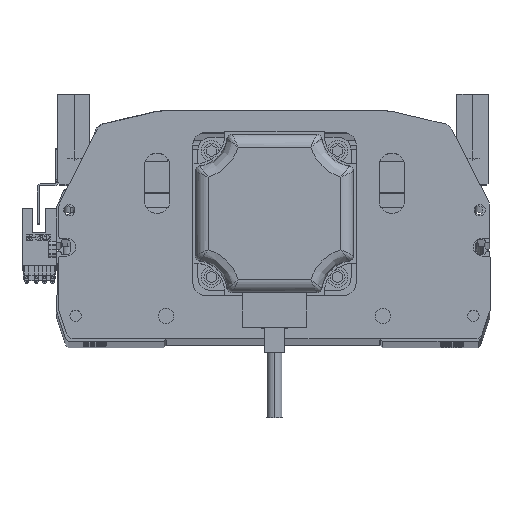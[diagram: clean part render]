
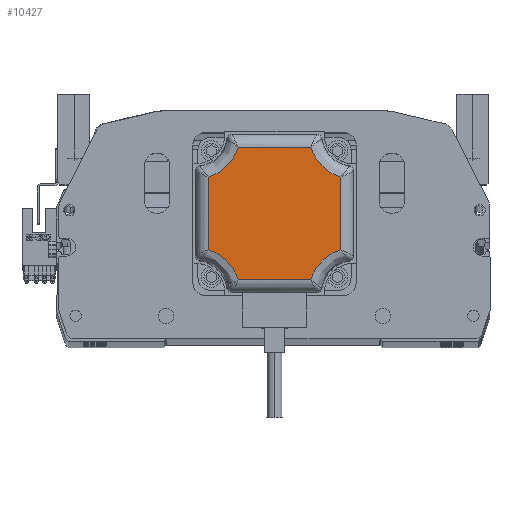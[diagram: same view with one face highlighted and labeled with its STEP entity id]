
A CAD part, top view. The second image highlights one B-rep face of the part: STEP entity #10427.
In plain terms, the highlighted planar face has unit normal (0, 0, 1) as drawn and (0, 0, -1) by its records, which use the part's own axes.
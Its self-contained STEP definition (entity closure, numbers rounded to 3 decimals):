
#228 = CARTESIAN_POINT ( 'NONE',  ( 15.5, 26., -116.5 ) ) ;
#376 =( BOUNDED_CURVE ( )  B_SPLINE_CURVE ( 3, ( #27657, #39695, #47520, #48190 ),
 .UNSPECIFIED., .F., .F. ) 
 B_SPLINE_CURVE_WITH_KNOTS ( ( 4, 4 ),
 ( 0., 1. ),
 .UNSPECIFIED. ) 
 CURVE ( )  GEOMETRIC_REPRESENTATION_ITEM ( )  RATIONAL_B_SPLINE_CURVE ( ( 1., 0.92, 0.92, 1. ) ) 
 REPRESENTATION_ITEM ( '' )  );
#2309 = VERTEX_POINT ( 'NONE', #49960 ) ;
#3080 = CARTESIAN_POINT ( 'NONE',  ( -15.5, -26., -116.5 ) ) ;
#3406 = PLANE ( 'NONE',  #18166 ) ;
#4440 = VERTEX_POINT ( 'NONE', #30923 ) ;
#6283 = EDGE_CURVE ( 'NONE', #20104, #25724, #24952, .T. ) ;
#6625 = CARTESIAN_POINT ( 'NONE',  ( 14.229, 26., -116.5 ) ) ;
#7629 = VECTOR ( 'NONE', #51141, 1000. ) ;
#7976 = EDGE_CURVE ( 'NONE', #32058, #20528, #41858, .T. ) ;
#8066 = VECTOR ( 'NONE', #23891, 1000. ) ;
#8738 = CARTESIAN_POINT ( 'NONE',  ( -26., -14.229, -116.5 ) ) ;
#10427 = ADVANCED_FACE ( 'NONE', ( #18359 ), #3406, .F. ) ;
#10495 = ORIENTED_EDGE ( 'NONE', *, *, #35332, .F. ) ;
#11271 = CARTESIAN_POINT ( 'NONE',  ( 14.229, 26., -116.5 ) ) ;
#11910 = ORIENTED_EDGE ( 'NONE', *, *, #41470, .F. ) ;
#12961 = CARTESIAN_POINT ( 'NONE',  ( -20.219, -15.953, -116.5 ) ) ;
#13675 = VERTEX_POINT ( 'NONE', #24072 ) ;
#15110 = CARTESIAN_POINT ( 'NONE',  ( 15.953, -20.219, -116.5 ) ) ;
#15205 = CARTESIAN_POINT ( 'NONE',  ( -26., 15.5, -116.5 ) ) ;
#16059 = CARTESIAN_POINT ( 'NONE',  ( 26., -15.5, -116.5 ) ) ;
#16516 = EDGE_CURVE ( 'NONE', #13675, #20104, #28831, .T. ) ;
#16792 = LINE ( 'NONE', #228, #8066 ) ;
#17334 = VERTEX_POINT ( 'NONE', #6625 ) ;
#17793 = ORIENTED_EDGE ( 'NONE', *, *, #16516, .F. ) ;
#18144 = VECTOR ( 'NONE', #36256, 1000. ) ;
#18166 = AXIS2_PLACEMENT_3D ( 'NONE', #31309, #47656, #43151 ) ;
#18359 = FACE_OUTER_BOUND ( 'NONE', #39188, .T. ) ;
#19145 = CARTESIAN_POINT ( 'NONE',  ( 26., -14.229, -116.5 ) ) ;
#20104 = VERTEX_POINT ( 'NONE', #32448 ) ;
#20528 = VERTEX_POINT ( 'NONE', #48172 ) ;
#23365 = ORIENTED_EDGE ( 'NONE', *, *, #27992, .F. ) ;
#23891 = DIRECTION ( 'NONE',  ( -1., 0., 0. ) ) ;
#24072 = CARTESIAN_POINT ( 'NONE',  ( -14.229, -26., -116.5 ) ) ;
#24952 =( BOUNDED_CURVE ( )  B_SPLINE_CURVE ( 3, ( #26611, #15110, #26782, #47000 ),
 .UNSPECIFIED., .F., .T. ) 
 B_SPLINE_CURVE_WITH_KNOTS ( ( 4, 4 ),
 ( 0., 1. ),
 .UNSPECIFIED. ) 
 CURVE ( )  GEOMETRIC_REPRESENTATION_ITEM ( )  RATIONAL_B_SPLINE_CURVE ( ( 1., 0.92, 0.92, 1. ) ) 
 REPRESENTATION_ITEM ( '' )  );
#25724 = VERTEX_POINT ( 'NONE', #19145 ) ;
#26611 = CARTESIAN_POINT ( 'NONE',  ( 14.229, -26., -116.5 ) ) ;
#26782 = CARTESIAN_POINT ( 'NONE',  ( 20.219, -15.953, -116.5 ) ) ;
#27460 = LINE ( 'NONE', #16059, #18144 ) ;
#27657 = CARTESIAN_POINT ( 'NONE',  ( -14.229, 26., -116.5 ) ) ;
#27803 =( BOUNDED_CURVE ( )  B_SPLINE_CURVE ( 3, ( #39688, #35174, #31861, #11271 ),
 .UNSPECIFIED., .F., .F. ) 
 B_SPLINE_CURVE_WITH_KNOTS ( ( 4, 4 ),
 ( 0., 1. ),
 .UNSPECIFIED. ) 
 CURVE ( )  GEOMETRIC_REPRESENTATION_ITEM ( )  RATIONAL_B_SPLINE_CURVE ( ( 1., 0.92, 0.92, 1. ) ) 
 REPRESENTATION_ITEM ( '' )  );
#27992 = EDGE_CURVE ( 'NONE', #4440, #17334, #27803, .T. ) ;
#28831 = LINE ( 'NONE', #3080, #7629 ) ;
#30923 = CARTESIAN_POINT ( 'NONE',  ( 26., 14.229, -116.5 ) ) ;
#31309 = CARTESIAN_POINT ( 'NONE',  ( 0., 0., -116.5 ) ) ;
#31861 = CARTESIAN_POINT ( 'NONE',  ( 15.953, 20.219, -116.5 ) ) ;
#31868 = CARTESIAN_POINT ( 'NONE',  ( -26., 14.229, -116.5 ) ) ;
#32058 = VERTEX_POINT ( 'NONE', #31868 ) ;
#32448 = CARTESIAN_POINT ( 'NONE',  ( 14.229, -26., -116.5 ) ) ;
#33364 = CARTESIAN_POINT ( 'NONE',  ( -15.953, -20.219, -116.5 ) ) ;
#34379 = ORIENTED_EDGE ( 'NONE', *, *, #6283, .F. ) ;
#34433 = VECTOR ( 'NONE', #47432, 1000. ) ;
#35174 = CARTESIAN_POINT ( 'NONE',  ( 20.219, 15.953, -116.5 ) ) ;
#35332 = EDGE_CURVE ( 'NONE', #20528, #13675, #35793, .T. ) ;
#35793 =( BOUNDED_CURVE ( )  B_SPLINE_CURVE ( 3, ( #8738, #12961, #33364, #41193 ),
 .UNSPECIFIED., .F., .F. ) 
 B_SPLINE_CURVE_WITH_KNOTS ( ( 4, 4 ),
 ( 0., 1. ),
 .UNSPECIFIED. ) 
 CURVE ( )  GEOMETRIC_REPRESENTATION_ITEM ( )  RATIONAL_B_SPLINE_CURVE ( ( 1., 0.92, 0.92, 1. ) ) 
 REPRESENTATION_ITEM ( '' )  );
#36256 = DIRECTION ( 'NONE',  ( 0., 1., 0. ) ) ;
#38511 = EDGE_CURVE ( 'NONE', #2309, #32058, #376, .T. ) ;
#39188 = EDGE_LOOP ( 'NONE', ( #46295, #47311, #23365, #11910, #34379, #17793, #10495, #42008 ) ) ;
#39688 = CARTESIAN_POINT ( 'NONE',  ( 26., 14.229, -116.5 ) ) ;
#39695 = CARTESIAN_POINT ( 'NONE',  ( -15.953, 20.219, -116.5 ) ) ;
#41193 = CARTESIAN_POINT ( 'NONE',  ( -14.229, -26., -116.5 ) ) ;
#41470 = EDGE_CURVE ( 'NONE', #25724, #4440, #27460, .T. ) ;
#41858 = LINE ( 'NONE', #15205, #34433 ) ;
#42008 = ORIENTED_EDGE ( 'NONE', *, *, #7976, .F. ) ;
#42421 = EDGE_CURVE ( 'NONE', #17334, #2309, #16792, .T. ) ;
#43151 = DIRECTION ( 'NONE',  ( 1., 0., 0. ) ) ;
#46295 = ORIENTED_EDGE ( 'NONE', *, *, #38511, .F. ) ;
#47000 = CARTESIAN_POINT ( 'NONE',  ( 26., -14.229, -116.5 ) ) ;
#47311 = ORIENTED_EDGE ( 'NONE', *, *, #42421, .F. ) ;
#47432 = DIRECTION ( 'NONE',  ( 0., -1., 0. ) ) ;
#47520 = CARTESIAN_POINT ( 'NONE',  ( -20.219, 15.953, -116.5 ) ) ;
#47656 = DIRECTION ( 'NONE',  ( 0., 0., 1. ) ) ;
#48172 = CARTESIAN_POINT ( 'NONE',  ( -26., -14.229, -116.5 ) ) ;
#48190 = CARTESIAN_POINT ( 'NONE',  ( -26., 14.229, -116.5 ) ) ;
#49960 = CARTESIAN_POINT ( 'NONE',  ( -14.229, 26., -116.5 ) ) ;
#51141 = DIRECTION ( 'NONE',  ( 1., 0., 0. ) ) ;
